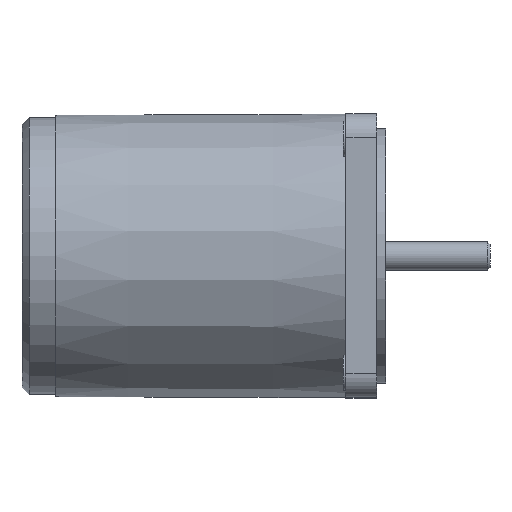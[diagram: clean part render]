
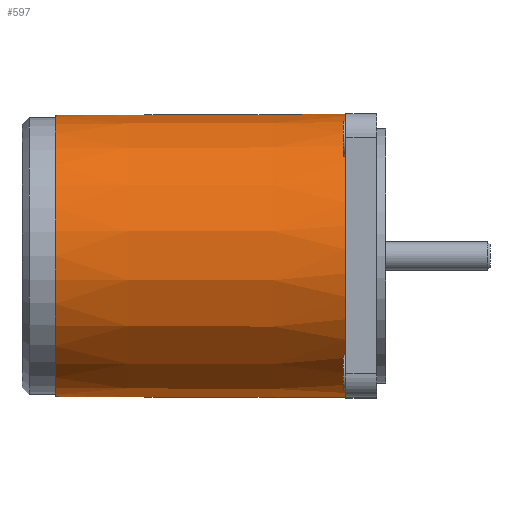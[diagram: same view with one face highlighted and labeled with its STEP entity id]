
A CAD part, top view. The second image highlights one B-rep face of the part: STEP entity #597.
In plain terms, the highlighted conical face has half-angle 0.233 degrees and reference radius 29.875 mm.
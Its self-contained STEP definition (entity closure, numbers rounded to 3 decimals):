
#183=CARTESIAN_POINT('',(26.5,-21.289,-20.894));
#184=VERTEX_POINT('',#183);
#194=CARTESIAN_POINT('',(26.5,21.289,-20.894));
#195=VERTEX_POINT('',#194);
#196=CARTESIAN_POINT('',(26.5,0.,0.0));
#197=DIRECTION('',(-1.0,0.0,0.0));
#198=DIRECTION('',(0.0,1.0,0.0));
#199=AXIS2_PLACEMENT_3D('',#196,#197,#198);
#200=CIRCLE('',#199,29.829);
#201=EDGE_CURVE('',#195,#184,#200,.T.);
#386=CARTESIAN_POINT('',(68.5,21.782,-20.628));
#387=VERTEX_POINT('',#386);
#396=CARTESIAN_POINT('',(26.5,21.769,-20.393));
#397=VERTEX_POINT('',#396);
#398=CARTESIAN_POINT('',(26.5,0.,0.0));
#399=DIRECTION('',(-1.0,0.0,0.0));
#400=DIRECTION('',(0.0,1.0,0.0));
#401=AXIS2_PLACEMENT_3D('',#398,#399,#400);
#402=CIRCLE('',#401,29.829);
#403=EDGE_CURVE('',#397,#195,#402,.T.);
#405=CARTESIAN_POINT('',(68.5,21.782,-20.628));
#406=CARTESIAN_POINT('',(47.386,21.776,-20.51));
#407=CARTESIAN_POINT('',(26.5,21.769,-20.393));
#415=(BOUNDED_CURVE()B_SPLINE_CURVE(2,(#405,#406,#407),.UNSPECIFIED.,.F.,.U.)B_SPLINE_CURVE_WITH_KNOTS((3,3),(0.0,4.2),.UNSPECIFIED.)CURVE()GEOMETRIC_REPRESENTATION_ITEM()RATIONAL_B_SPLINE_CURVE((1.0,1.,1.0))REPRESENTATION_ITEM(''));
#416=EDGE_CURVE('',#387,#397,#415,.T.);
#532=CARTESIAN_POINT('',(68.5,-21.782,-20.628));
#533=VERTEX_POINT('',#532);
#541=CARTESIAN_POINT('',(26.5,-21.769,-20.393));
#542=VERTEX_POINT('',#541);
#543=CARTESIAN_POINT('',(26.5,-21.769,-20.393));
#544=CARTESIAN_POINT('',(47.386,-21.776,-20.51));
#545=CARTESIAN_POINT('',(68.5,-21.782,-20.628));
#553=(BOUNDED_CURVE()B_SPLINE_CURVE(2,(#543,#544,#545),.UNSPECIFIED.,.F.,.U.)B_SPLINE_CURVE_WITH_KNOTS((3,3),(0.0,4.2),.UNSPECIFIED.)CURVE()GEOMETRIC_REPRESENTATION_ITEM()RATIONAL_B_SPLINE_CURVE((1.0,1.,1.0))REPRESENTATION_ITEM(''));
#554=EDGE_CURVE('',#542,#533,#553,.T.);
#556=CARTESIAN_POINT('',(26.5,0.,0.0));
#557=DIRECTION('',(-1.0,0.0,0.0));
#558=DIRECTION('',(0.0,1.0,0.0));
#559=AXIS2_PLACEMENT_3D('',#556,#557,#558);
#560=CIRCLE('',#559,29.829);
#561=EDGE_CURVE('',#184,#542,#560,.T.);
#567=CARTESIAN_POINT('',(37.75,0.,0.0));
#568=DIRECTION('',(1.0,0.,0.0));
#569=DIRECTION('',(0.0,1.0,0.0));
#570=AXIS2_PLACEMENT_3D('',#567,#568,#569);
#571=CONICAL_SURFACE('',#570,29.875,0.233);
#572=CARTESIAN_POINT('',(7.,29.75,0.0));
#573=VERTEX_POINT('',#572);
#574=CARTESIAN_POINT('',(7.,0.,0.0));
#575=DIRECTION('',(1.0,0.0,0.0));
#576=DIRECTION('',(0.0,1.0,0.0));
#577=AXIS2_PLACEMENT_3D('',#574,#575,#576);
#578=CIRCLE('',#577,29.75);
#579=EDGE_CURVE('',#573,#573,#578,.T.);
#580=ORIENTED_EDGE('',*,*,#579,.T.);
#581=EDGE_LOOP('',(#580));
#582=FACE_OUTER_BOUND('',#581,.T.);
#583=ORIENTED_EDGE('',*,*,#416,.T.);
#584=ORIENTED_EDGE('',*,*,#403,.T.);
#585=ORIENTED_EDGE('',*,*,#201,.T.);
#586=ORIENTED_EDGE('',*,*,#561,.T.);
#587=ORIENTED_EDGE('',*,*,#554,.T.);
#588=CARTESIAN_POINT('',(68.5,0.,0.0));
#589=DIRECTION('',(1.0,0.0,0.0));
#590=DIRECTION('',(0.0,1.0,0.0));
#591=AXIS2_PLACEMENT_3D('',#588,#589,#590);
#592=CIRCLE('',#591,30.0);
#593=EDGE_CURVE('',#387,#533,#592,.T.);
#594=ORIENTED_EDGE('',*,*,#593,.F.);
#595=EDGE_LOOP('',(#583,#584,#585,#586,#587,#594));
#596=FACE_BOUND('',#595,.T.);
#597=ADVANCED_FACE('',(#582,#596),#571,.T.);
